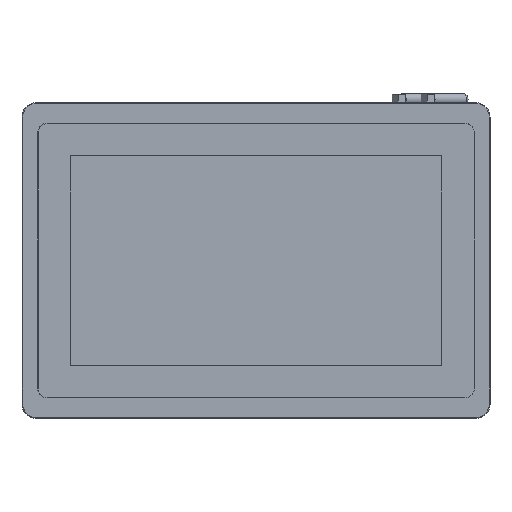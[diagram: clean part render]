
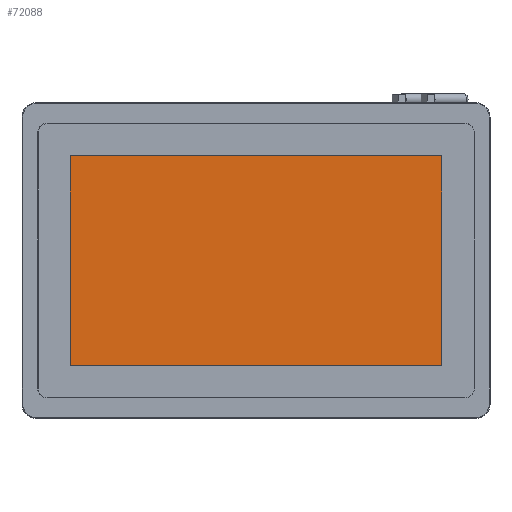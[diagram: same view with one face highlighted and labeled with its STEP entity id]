
A CAD part, top view. The second image highlights one B-rep face of the part: STEP entity #72088.
In plain terms, the highlighted planar face has unit normal (0, 0, 1).
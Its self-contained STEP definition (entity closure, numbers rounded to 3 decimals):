
#25733=DIRECTION('',(0.,1.,0.));
#25734=VECTOR('',#25733,145.);
#25735=CARTESIAN_POINT('',(290.45,36.65,-2.38));
#25736=LINE('',#25735,#25734);
#25737=DIRECTION('',(1.,0.,0.));
#25738=VECTOR('',#25737,257.);
#25739=CARTESIAN_POINT('',(33.45,36.65,-2.38));
#25740=LINE('',#25739,#25738);
#25741=DIRECTION('',(0.,-1.,0.));
#25742=VECTOR('',#25741,145.);
#25743=CARTESIAN_POINT('',(33.45,181.65,-2.38));
#25744=LINE('',#25743,#25742);
#25745=DIRECTION('',(-1.,0.,0.));
#25746=VECTOR('',#25745,257.);
#25747=CARTESIAN_POINT('',(290.45,181.65,-2.38));
#25748=LINE('',#25747,#25746);
#27078=CARTESIAN_POINT('',(290.45,181.65,-2.38));
#27080=VERTEX_POINT('',#27078);
#27081=CARTESIAN_POINT('',(290.45,36.65,-2.38));
#27083=VERTEX_POINT('',#27081);
#27085=CARTESIAN_POINT('',(33.45,36.65,-2.38));
#27087=VERTEX_POINT('',#27085);
#27089=CARTESIAN_POINT('',(33.45,181.65,-2.38));
#27091=VERTEX_POINT('',#27089);
#72077=CARTESIAN_POINT('',(161.95,109.15,-2.38));
#72078=DIRECTION('',(0.,0.,1.));
#72079=DIRECTION('',(-1.,0.,0.));
#72080=AXIS2_PLACEMENT_3D('',#72077,#72078,#72079);
#72081=PLANE('',#72080);
#72082=ORIENTED_EDGE('',*,*,#72029,.F.);
#72083=ORIENTED_EDGE('',*,*,#72044,.F.);
#72084=ORIENTED_EDGE('',*,*,#72058,.F.);
#72085=ORIENTED_EDGE('',*,*,#72071,.F.);
#72086=EDGE_LOOP('',(#72082,#72083,#72084,#72085));
#72087=FACE_OUTER_BOUND('',#72086,.F.);
#72088=ADVANCED_FACE('',(#72087),#72081,.T.);
#72029=EDGE_CURVE('',#27083,#27080,#25736,.T.);
#72044=EDGE_CURVE('',#27087,#27083,#25740,.T.);
#72058=EDGE_CURVE('',#27091,#27087,#25744,.T.);
#72071=EDGE_CURVE('',#27080,#27091,#25748,.T.);
